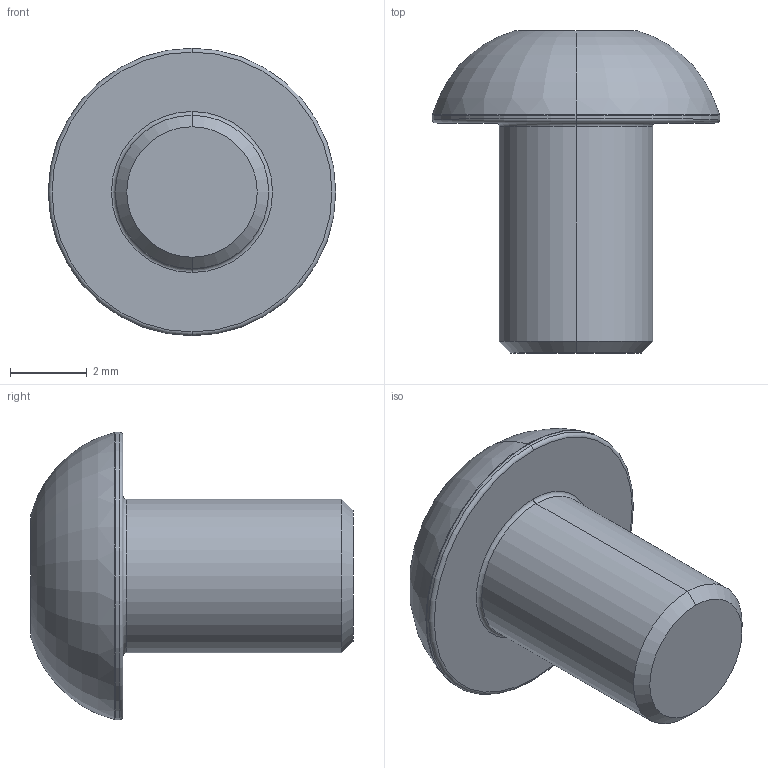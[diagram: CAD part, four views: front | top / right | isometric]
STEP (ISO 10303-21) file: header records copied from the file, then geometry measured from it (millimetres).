
FILE_DESCRIPTION (( 'STEP AP203' ), '1' );
FILE_NAME ('LGDD-304-M4x6.STEP', '2026-08-08T03:07:40', ( '' ), ( '' ), 'SwSTEP 2.0', 'SolidWorks 2020', '' );
FILE_SCHEMA (( 'CONFIG_CONTROL_DESIGN' ));
Length unit declared in the file: millimetre
Products named in the file (1): LGDD-304-M4x6
Bounding box: 7.5 x 8.4 x 7.5 mm (x, y, z)
Volume: 142.1 mm3; surface area: 201.1 mm2
Topology: 1 solids, 1 shells, 31 faces, 59 edges, 32 vertices
Faces by surface type: plane 10, cone 9, torus 8, cylinder 4
Entity records: 864 total; most frequent: CARTESIAN_POINT 154, DIRECTION 149, ORIENTED_EDGE 118, AXIS2_PLACEMENT_3D 65, EDGE_CURVE 59, EDGE_LOOP 33, CIRCLE 33, VERTEX_POINT 32
